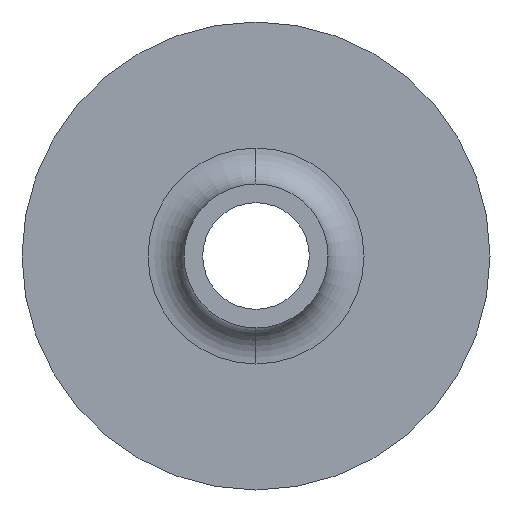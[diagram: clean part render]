
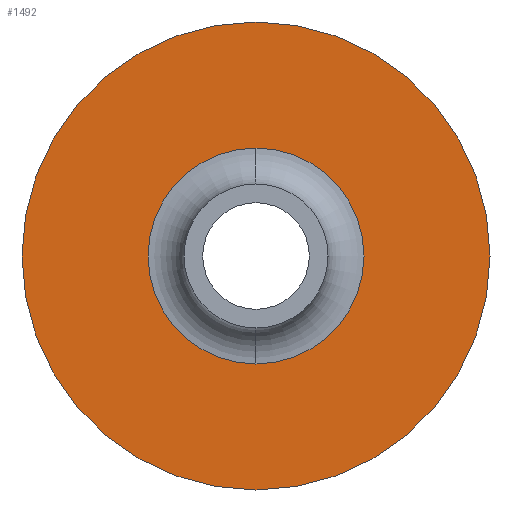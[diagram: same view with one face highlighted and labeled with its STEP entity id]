
A CAD part, front view. The second image highlights one B-rep face of the part: STEP entity #1492.
In plain terms, the highlighted planar face has unit normal (0, -1, 0).
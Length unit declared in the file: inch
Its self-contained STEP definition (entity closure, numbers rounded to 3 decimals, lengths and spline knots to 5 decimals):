
#99 = CARTESIAN_POINT ( 'NONE',  ( 0., 0.41989, -0.8125 ) ) ;
#100 = AXIS2_PLACEMENT_3D ( 'NONE', #2506, #1332, #163 ) ;
#150 = AXIS2_PLACEMENT_3D ( 'NONE', #1067, #2425, #1254 ) ;
#152 = CIRCLE ( 'NONE', #100, 0.375 ) ;
#163 = DIRECTION ( 'NONE',  ( 0., 0., -1. ) ) ;
#210 = ORIENTED_EDGE ( 'NONE', *, *, #2519, .T. ) ;
#312 = CARTESIAN_POINT ( 'NONE',  ( 0., 0.41989, 0. ) ) ;
#329 = DIRECTION ( 'NONE',  ( 0., -1., 0. ) ) ;
#516 = DIRECTION ( 'NONE',  ( 0., 0., -1. ) ) ;
#626 = CARTESIAN_POINT ( 'NONE',  ( -0.8125, 0.41989, 0. ) ) ;
#760 = ORIENTED_EDGE ( 'NONE', *, *, #1635, .T. ) ;
#770 = CIRCLE ( 'NONE', #150, 0.8125 ) ;
#876 = VERTEX_POINT ( 'NONE', #1096 ) ;
#895 = EDGE_CURVE ( 'NONE', #975, #1390, #2244, .T. ) ;
#925 = AXIS2_PLACEMENT_3D ( 'NONE', #312, #1671, #516 ) ;
#933 = CARTESIAN_POINT ( 'NONE',  ( 0., 0.41989, 0.375 ) ) ;
#975 = VERTEX_POINT ( 'NONE', #933 ) ;
#1022 = DIRECTION ( 'NONE',  ( 0., 1., 0. ) ) ;
#1026 = FACE_BOUND ( 'NONE', #2534, .T. ) ;
#1067 = CARTESIAN_POINT ( 'NONE',  ( 0., 0.41989, 0. ) ) ;
#1096 = CARTESIAN_POINT ( 'NONE',  ( 0., 0.41989, 0.8125 ) ) ;
#1184 = CARTESIAN_POINT ( 'NONE',  ( 0., 0.41989, -0.375 ) ) ;
#1187 = AXIS2_PLACEMENT_3D ( 'NONE', #1504, #329, #1685 ) ;
#1243 = ORIENTED_EDGE ( 'NONE', *, *, #895, .F. ) ;
#1247 = AXIS2_PLACEMENT_3D ( 'NONE', #626, #1022, #2384 ) ;
#1254 = DIRECTION ( 'NONE',  ( 0., 0., -1. ) ) ;
#1332 = DIRECTION ( 'NONE',  ( 0., -1., 0. ) ) ;
#1390 = VERTEX_POINT ( 'NONE', #1184 ) ;
#1406 = CIRCLE ( 'NONE', #1187, 0.8125 ) ;
#1492 = ADVANCED_FACE ( 'NONE', ( #1026, #2456 ), #2192, .F. ) ;
#1504 = CARTESIAN_POINT ( 'NONE',  ( 0., 0.41989, 0. ) ) ;
#1523 = EDGE_LOOP ( 'NONE', ( #210, #760 ) ) ;
#1635 = EDGE_CURVE ( 'NONE', #876, #2403, #770, .T. ) ;
#1671 = DIRECTION ( 'NONE',  ( 0., -1., 0. ) ) ;
#1685 = DIRECTION ( 'NONE',  ( 0., 0., -1. ) ) ;
#1880 = EDGE_CURVE ( 'NONE', #1390, #975, #152, .T. ) ;
#2192 = PLANE ( 'NONE',  #1247 ) ;
#2244 = CIRCLE ( 'NONE', #925, 0.375 ) ;
#2376 = ORIENTED_EDGE ( 'NONE', *, *, #1880, .F. ) ;
#2384 = DIRECTION ( 'NONE',  ( 0., 0., 1. ) ) ;
#2403 = VERTEX_POINT ( 'NONE', #99 ) ;
#2425 = DIRECTION ( 'NONE',  ( 0., -1., 0. ) ) ;
#2456 = FACE_OUTER_BOUND ( 'NONE', #1523, .T. ) ;
#2506 = CARTESIAN_POINT ( 'NONE',  ( 0., 0.41989, 0. ) ) ;
#2519 = EDGE_CURVE ( 'NONE', #2403, #876, #1406, .T. ) ;
#2534 = EDGE_LOOP ( 'NONE', ( #2376, #1243 ) ) ;
